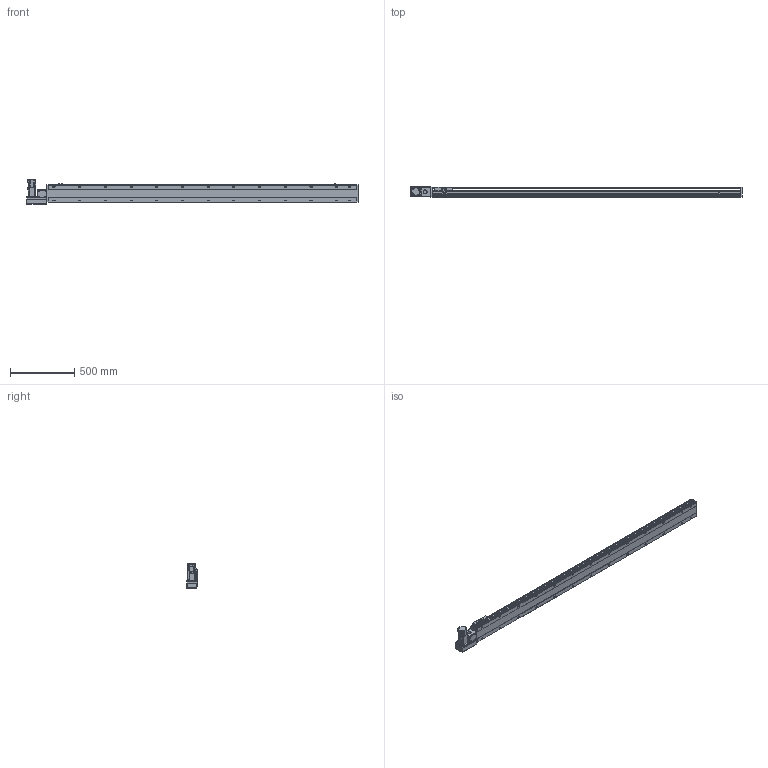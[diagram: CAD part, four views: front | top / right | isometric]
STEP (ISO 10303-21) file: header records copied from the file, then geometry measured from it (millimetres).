
FILE_DESCRIPTION( ( 'STEP AP214' ), '1' );
FILE_NAME( 'x:/temp/worker_27/temp/exporttempdir_6708_308_z4T8F/format_0/PBS140-P40-S2150-L-T40-C1-N(0).stp', '2022-06-06T01:06:39', ( 'License CC BY-ND 4.0' ), ( 'CADENAS' ), ' ', 'PARTsolutions', ' ' );
FILE_SCHEMA( ( 'AUTOMOTIVE_DESIGN { 1 0 10303 214 1 1 1 1 }' ) );
Length unit declared in the file: millimetre
Products named in the file (7): PBS140-P40-S2150-L-T40-C1-N(0); _PBS140-S2150()_body; _PBS140T-L_motors; _T40-p1; _PBS140_sliser; _PBS140_plant; _PBS140_sensor
Assembly tree (8 placements, depth 2):
  PBS140-P40-S2150-L-T40-C1-N(0)
    _PBS140-S2150()_body
    _PBS140T-L_motors
    _T40-p1
    _PBS140_sliser
    _PBS140_plant
    _PBS140_sensor  x3
Bounding box: 2583 x 80.5 x 189.7 mm (x, y, z)
Volume: 11332795.1 mm3; surface area: 1937537.7 mm2
Topology: 8 solids, 8 shells, 1155 faces, 3036 edges, 1983 vertices
Faces by surface type: plane 722, cylinder 371, cone 52, sphere 8, torus 2
Full cylindrical faces by diameter (mm): 3.242 x4, 4 x2, 4.134 x4, 4.4 x8, 4.5 x2, 4.8 x4, 4.917 x34, 5.5 x7, 6 x2, 7 x28, 7.5 x8, 8 x12, 8.5 x4, 10.5 x26, 14 x1, 30 x2, 50 x2
Entity records: 42499 total; most frequent: CARTESIAN_POINT 7091, DIRECTION 5547, ORIENTED_EDGE 5212, EDGE_CURVE 2606, AXIS2_PLACEMENT_3D 1957, VERTEX_POINT 1821, LINE 1633, VECTOR 1633
